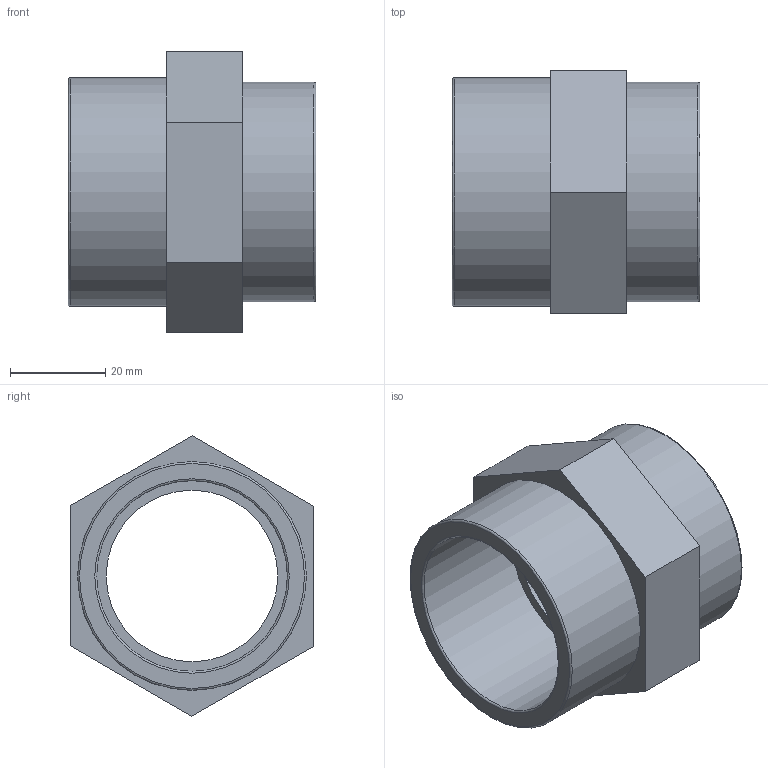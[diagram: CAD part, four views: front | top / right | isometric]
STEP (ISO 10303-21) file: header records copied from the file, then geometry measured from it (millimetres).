
FILE_DESCRIPTION(/* description */ ('PLASSON SOCKET ADAPTOR THR-CEM 40-1.1/4"'),/* implementation_level */ '2;1');
FILE_NAME(/* name */ 'C:\Dropbox\KIMPROJECTS-Inventor\99-16-3568-Processing\PVC Catalog 2017\050102\050102040013.ipt.stp',/* time_stamp */ '2017-12-07T15:51:54+02:00',/* author */ ('KIM'),/* organization */ (''),/* preprocessor_version */ 'ST-DEVELOPER v15.6',/* originating_system */ 'Autodesk Inventor 2015',/* authorisation */ '');
FILE_SCHEMA (('AUTOMOTIVE_DESIGN { 1 0 10303 214 3 1 1 }'));
Length unit declared in the file: millimetre
Products named in the file (1): 050102040013
Bounding box: 52 x 51.08 x 58.89 mm (x, y, z)
Volume: 35931.6 mm3; surface area: 16946.5 mm2
Topology: 1 solids, 1 shells, 21 faces, 41 edges, 26 vertices
Faces by surface type: plane 12, cylinder 5, torus 4
Full cylindrical faces by diameter (mm): 36 x1, 38.952 x1, 40 x1, 46 x1, 48 x1
Entity records: 520 total; most frequent: DIRECTION 90, CARTESIAN_POINT 80, ORIENTED_EDGE 64, EDGE_LOOP 36, AXIS2_PLACEMENT_3D 36, EDGE_CURVE 32, VERTEX_POINT 26, FACE_OUTER_BOUND 21
